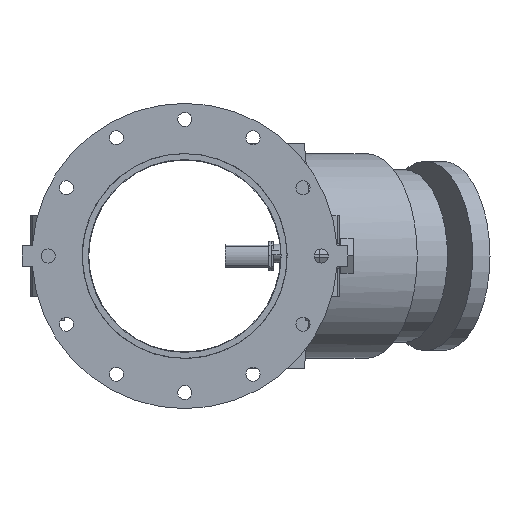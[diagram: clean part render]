
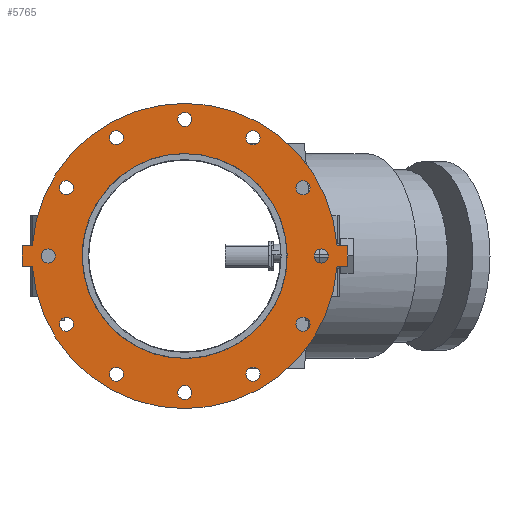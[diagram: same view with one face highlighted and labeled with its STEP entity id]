
A CAD part, front view. The second image highlights one B-rep face of the part: STEP entity #5765.
In plain terms, the highlighted planar face has unit normal (0, -1, 0) as drawn and (0, 0, 1) by its records, which use the part's own axes.
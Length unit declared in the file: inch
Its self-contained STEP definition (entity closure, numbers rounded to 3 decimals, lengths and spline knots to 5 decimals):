
#148=FACE_BOUND('',#771,.T.);
#149=FACE_BOUND('',#772,.T.);
#150=FACE_BOUND('',#773,.T.);
#151=FACE_BOUND('',#774,.T.);
#152=FACE_BOUND('',#775,.T.);
#153=FACE_BOUND('',#776,.T.);
#154=FACE_BOUND('',#777,.T.);
#155=FACE_BOUND('',#778,.T.);
#156=FACE_BOUND('',#779,.T.);
#157=FACE_BOUND('',#780,.T.);
#158=FACE_BOUND('',#781,.T.);
#159=FACE_BOUND('',#782,.T.);
#160=FACE_BOUND('',#783,.T.);
#227=PLANE('',#6300);
#437=FACE_OUTER_BOUND('',#770,.T.);
#770=EDGE_LOOP('',(#3802,#3803,#3804,#3805,#3806,#3807,#3808,#3809));
#771=EDGE_LOOP('',(#3810));
#772=EDGE_LOOP('',(#3811));
#773=EDGE_LOOP('',(#3812));
#774=EDGE_LOOP('',(#3813));
#775=EDGE_LOOP('',(#3814));
#776=EDGE_LOOP('',(#3815));
#777=EDGE_LOOP('',(#3816));
#778=EDGE_LOOP('',(#3817));
#779=EDGE_LOOP('',(#3818));
#780=EDGE_LOOP('',(#3819));
#781=EDGE_LOOP('',(#3820));
#782=EDGE_LOOP('',(#3821));
#783=EDGE_LOOP('',(#3822,#3823));
#1164=LINE('',#8822,#1598);
#1165=LINE('',#8825,#1599);
#1168=LINE('',#8830,#1602);
#1169=LINE('',#8833,#1603);
#1171=LINE('',#8836,#1605);
#1172=LINE('',#8838,#1606);
#1598=VECTOR('',#7046,0.3937);
#1599=VECTOR('',#7049,0.3937);
#1602=VECTOR('',#7054,0.3937);
#1603=VECTOR('',#7057,0.3937);
#1605=VECTOR('',#7061,0.3937);
#1606=VECTOR('',#7064,0.3937);
#2008=CIRCLE('',#6247,0.4375);
#2010=CIRCLE('',#6250,0.4375);
#2012=CIRCLE('',#6253,0.4375);
#2014=CIRCLE('',#6256,0.4375);
#2016=CIRCLE('',#6259,0.4375);
#2018=CIRCLE('',#6262,0.4375);
#2020=CIRCLE('',#6265,0.4375);
#2022=CIRCLE('',#6268,0.4375);
#2024=CIRCLE('',#6271,0.4375);
#2026=CIRCLE('',#6274,0.4375);
#2028=CIRCLE('',#6277,0.4375);
#2030=CIRCLE('',#6280,0.4375);
#2036=CIRCLE('',#6288,9.5);
#2037=CIRCLE('',#6290,6.375);
#2038=CIRCLE('',#6291,6.375);
#2039=CIRCLE('',#6293,9.5);
#2333=VERTEX_POINT('',#8709);
#2335=VERTEX_POINT('',#8715);
#2337=VERTEX_POINT('',#8721);
#2339=VERTEX_POINT('',#8727);
#2341=VERTEX_POINT('',#8733);
#2343=VERTEX_POINT('',#8739);
#2345=VERTEX_POINT('',#8745);
#2347=VERTEX_POINT('',#8751);
#2349=VERTEX_POINT('',#8757);
#2351=VERTEX_POINT('',#8763);
#2353=VERTEX_POINT('',#8769);
#2355=VERTEX_POINT('',#8775);
#2367=VERTEX_POINT('',#8802);
#2368=VERTEX_POINT('',#8804);
#2369=VERTEX_POINT('',#8808);
#2370=VERTEX_POINT('',#8810);
#2371=VERTEX_POINT('',#8814);
#2372=VERTEX_POINT('',#8816);
#2373=VERTEX_POINT('',#8820);
#2374=VERTEX_POINT('',#8824);
#2375=VERTEX_POINT('',#8828);
#2376=VERTEX_POINT('',#8832);
#2886=EDGE_CURVE('',#2333,#2333,#2008,.T.);
#2889=EDGE_CURVE('',#2335,#2335,#2010,.T.);
#2892=EDGE_CURVE('',#2337,#2337,#2012,.T.);
#2895=EDGE_CURVE('',#2339,#2339,#2014,.T.);
#2898=EDGE_CURVE('',#2341,#2341,#2016,.T.);
#2901=EDGE_CURVE('',#2343,#2343,#2018,.T.);
#2904=EDGE_CURVE('',#2345,#2345,#2020,.T.);
#2907=EDGE_CURVE('',#2347,#2347,#2022,.T.);
#2910=EDGE_CURVE('',#2349,#2349,#2024,.T.);
#2913=EDGE_CURVE('',#2351,#2351,#2026,.T.);
#2916=EDGE_CURVE('',#2353,#2353,#2028,.T.);
#2919=EDGE_CURVE('',#2355,#2355,#2030,.T.);
#2934=EDGE_CURVE('',#2367,#2368,#2036,.T.);
#2936=EDGE_CURVE('',#2370,#2369,#2037,.T.);
#2937=EDGE_CURVE('',#2369,#2370,#2038,.T.);
#2939=EDGE_CURVE('',#2372,#2371,#2039,.T.);
#2942=EDGE_CURVE('',#2368,#2373,#1164,.T.);
#2943=EDGE_CURVE('',#2374,#2372,#1165,.T.);
#2946=EDGE_CURVE('',#2371,#2375,#1168,.T.);
#2947=EDGE_CURVE('',#2376,#2367,#1169,.T.);
#2949=EDGE_CURVE('',#2375,#2376,#1171,.T.);
#2950=EDGE_CURVE('',#2373,#2374,#1172,.T.);
#3802=ORIENTED_EDGE('',*,*,#2946,.T.);
#3803=ORIENTED_EDGE('',*,*,#2949,.T.);
#3804=ORIENTED_EDGE('',*,*,#2947,.T.);
#3805=ORIENTED_EDGE('',*,*,#2934,.T.);
#3806=ORIENTED_EDGE('',*,*,#2942,.T.);
#3807=ORIENTED_EDGE('',*,*,#2950,.T.);
#3808=ORIENTED_EDGE('',*,*,#2943,.T.);
#3809=ORIENTED_EDGE('',*,*,#2939,.T.);
#3810=ORIENTED_EDGE('',*,*,#2886,.T.);
#3811=ORIENTED_EDGE('',*,*,#2889,.T.);
#3812=ORIENTED_EDGE('',*,*,#2892,.T.);
#3813=ORIENTED_EDGE('',*,*,#2895,.T.);
#3814=ORIENTED_EDGE('',*,*,#2898,.T.);
#3815=ORIENTED_EDGE('',*,*,#2901,.T.);
#3816=ORIENTED_EDGE('',*,*,#2904,.T.);
#3817=ORIENTED_EDGE('',*,*,#2907,.T.);
#3818=ORIENTED_EDGE('',*,*,#2910,.T.);
#3819=ORIENTED_EDGE('',*,*,#2913,.T.);
#3820=ORIENTED_EDGE('',*,*,#2916,.T.);
#3821=ORIENTED_EDGE('',*,*,#2919,.T.);
#3822=ORIENTED_EDGE('',*,*,#2936,.T.);
#3823=ORIENTED_EDGE('',*,*,#2937,.T.);
#5765=ADVANCED_FACE('',(#437,#148,#149,#150,#151,#152,#153,#154,#155,#156,
#157,#158,#159,#160),#227,.T.);
#6247=AXIS2_PLACEMENT_3D('',#8710,#6926,#6927);
#6250=AXIS2_PLACEMENT_3D('',#8716,#6933,#6934);
#6253=AXIS2_PLACEMENT_3D('',#8722,#6940,#6941);
#6256=AXIS2_PLACEMENT_3D('',#8728,#6947,#6948);
#6259=AXIS2_PLACEMENT_3D('',#8734,#6954,#6955);
#6262=AXIS2_PLACEMENT_3D('',#8740,#6961,#6962);
#6265=AXIS2_PLACEMENT_3D('',#8746,#6968,#6969);
#6268=AXIS2_PLACEMENT_3D('',#8752,#6975,#6976);
#6271=AXIS2_PLACEMENT_3D('',#8758,#6982,#6983);
#6274=AXIS2_PLACEMENT_3D('',#8764,#6989,#6990);
#6277=AXIS2_PLACEMENT_3D('',#8770,#6996,#6997);
#6280=AXIS2_PLACEMENT_3D('',#8776,#7003,#7004);
#6288=AXIS2_PLACEMENT_3D('',#8806,#7028,#7029);
#6290=AXIS2_PLACEMENT_3D('',#8811,#7033,#7034);
#6291=AXIS2_PLACEMENT_3D('',#8812,#7035,#7036);
#6293=AXIS2_PLACEMENT_3D('',#8817,#7040,#7041);
#6300=AXIS2_PLACEMENT_3D('',#8839,#7065,#7066);
#6926=DIRECTION('center_axis',(0.,0.,-1.));
#6927=DIRECTION('ref_axis',(-0.866,0.5,0.));
#6933=DIRECTION('center_axis',(0.,0.,-1.));
#6934=DIRECTION('ref_axis',(-0.5,0.866,0.));
#6940=DIRECTION('center_axis',(0.,0.,-1.));
#6941=DIRECTION('ref_axis',(0.,1.,0.));
#6947=DIRECTION('center_axis',(0.,0.,-1.));
#6948=DIRECTION('ref_axis',(0.5,0.866,0.));
#6954=DIRECTION('center_axis',(0.,0.,-1.));
#6955=DIRECTION('ref_axis',(0.866,0.5,0.));
#6961=DIRECTION('center_axis',(0.,0.,-1.));
#6962=DIRECTION('ref_axis',(1.,0.,0.));
#6968=DIRECTION('center_axis',(0.,0.,-1.));
#6969=DIRECTION('ref_axis',(0.866,-0.5,0.));
#6975=DIRECTION('center_axis',(0.,0.,-1.));
#6976=DIRECTION('ref_axis',(0.5,-0.866,0.));
#6982=DIRECTION('center_axis',(0.,0.,-1.));
#6983=DIRECTION('ref_axis',(0.,-1.,0.));
#6989=DIRECTION('center_axis',(0.,0.,-1.));
#6990=DIRECTION('ref_axis',(-0.5,-0.866,0.));
#6996=DIRECTION('center_axis',(0.,0.,-1.));
#6997=DIRECTION('ref_axis',(-0.866,-0.5,0.));
#7003=DIRECTION('center_axis',(0.,0.,-1.));
#7004=DIRECTION('ref_axis',(-1.,0.,0.));
#7028=DIRECTION('center_axis',(0.,0.,1.));
#7029=DIRECTION('ref_axis',(-1.,0.,0.));
#7033=DIRECTION('center_axis',(0.,0.,-1.));
#7034=DIRECTION('ref_axis',(-1.,0.,0.));
#7035=DIRECTION('center_axis',(0.,0.,-1.));
#7036=DIRECTION('ref_axis',(-1.,0.,0.));
#7040=DIRECTION('center_axis',(0.,0.,1.));
#7041=DIRECTION('ref_axis',(-1.,0.,0.));
#7046=DIRECTION('',(0.,1.,0.));
#7049=DIRECTION('',(0.,-1.,0.));
#7054=DIRECTION('',(0.,-1.,0.));
#7057=DIRECTION('',(0.,1.,0.));
#7061=DIRECTION('',(1.,0.,0.));
#7064=DIRECTION('',(-1.,0.,0.));
#7065=DIRECTION('center_axis',(0.,0.,1.));
#7066=DIRECTION('ref_axis',(1.,0.,0.));
#8709=CARTESIAN_POINT('',(-6.98233,4.03125,0.625));
#8710=CARTESIAN_POINT('Origin',(-7.36122,4.25,0.625));
#8715=CARTESIAN_POINT('',(-4.03125,6.98233,0.625));
#8716=CARTESIAN_POINT('Origin',(-4.25,7.36122,0.625));
#8721=CARTESIAN_POINT('',(0.,8.0625,0.625));
#8722=CARTESIAN_POINT('Origin',(0.,8.5,0.625));
#8727=CARTESIAN_POINT('',(4.03125,6.98233,0.625));
#8728=CARTESIAN_POINT('Origin',(4.25,7.36122,0.625));
#8733=CARTESIAN_POINT('',(6.98233,4.03125,0.625));
#8734=CARTESIAN_POINT('Origin',(7.36122,4.25,0.625));
#8739=CARTESIAN_POINT('',(8.0625,0.,0.625));
#8740=CARTESIAN_POINT('Origin',(8.5,0.,0.625));
#8745=CARTESIAN_POINT('',(6.98233,-4.03125,0.625));
#8746=CARTESIAN_POINT('Origin',(7.36122,-4.25,0.625));
#8751=CARTESIAN_POINT('',(4.03125,-6.98233,0.625));
#8752=CARTESIAN_POINT('Origin',(4.25,-7.36122,0.625));
#8757=CARTESIAN_POINT('',(0.,-8.0625,0.625));
#8758=CARTESIAN_POINT('Origin',(0.,-8.5,0.625));
#8763=CARTESIAN_POINT('',(-4.03125,-6.98233,0.625));
#8764=CARTESIAN_POINT('Origin',(-4.25,-7.36122,0.625));
#8769=CARTESIAN_POINT('',(-6.98233,-4.03125,0.625));
#8770=CARTESIAN_POINT('Origin',(-7.36122,-4.25,0.625));
#8775=CARTESIAN_POINT('',(-8.0625,0.,0.625));
#8776=CARTESIAN_POINT('Origin',(-8.5,0.,0.625));
#8802=CARTESIAN_POINT('',(0.625,-9.47942,0.625));
#8804=CARTESIAN_POINT('',(0.625,9.47942,0.625));
#8806=CARTESIAN_POINT('Origin',(0.,0.,0.625));
#8808=CARTESIAN_POINT('',(6.375,0.,0.625));
#8810=CARTESIAN_POINT('',(0.625,6.34429,0.625));
#8811=CARTESIAN_POINT('Origin',(0.,0.,0.625));
#8812=CARTESIAN_POINT('Origin',(0.,0.,0.625));
#8814=CARTESIAN_POINT('',(-0.625,-9.47942,0.625));
#8816=CARTESIAN_POINT('',(-0.625,9.47942,0.625));
#8817=CARTESIAN_POINT('Origin',(0.,0.,0.625));
#8820=CARTESIAN_POINT('',(0.625,10.125,0.625));
#8822=CARTESIAN_POINT('',(0.625,10.125,0.625));
#8824=CARTESIAN_POINT('',(-0.625,10.125,0.625));
#8825=CARTESIAN_POINT('',(-0.625,-10.125,0.625));
#8828=CARTESIAN_POINT('',(-0.625,-10.125,0.625));
#8830=CARTESIAN_POINT('',(-0.625,-10.125,0.625));
#8832=CARTESIAN_POINT('',(0.625,-10.125,0.625));
#8833=CARTESIAN_POINT('',(0.625,10.125,0.625));
#8836=CARTESIAN_POINT('',(0.625,-10.125,0.625));
#8838=CARTESIAN_POINT('',(-0.625,10.125,0.625));
#8839=CARTESIAN_POINT('Origin',(0.,0.,0.625));
